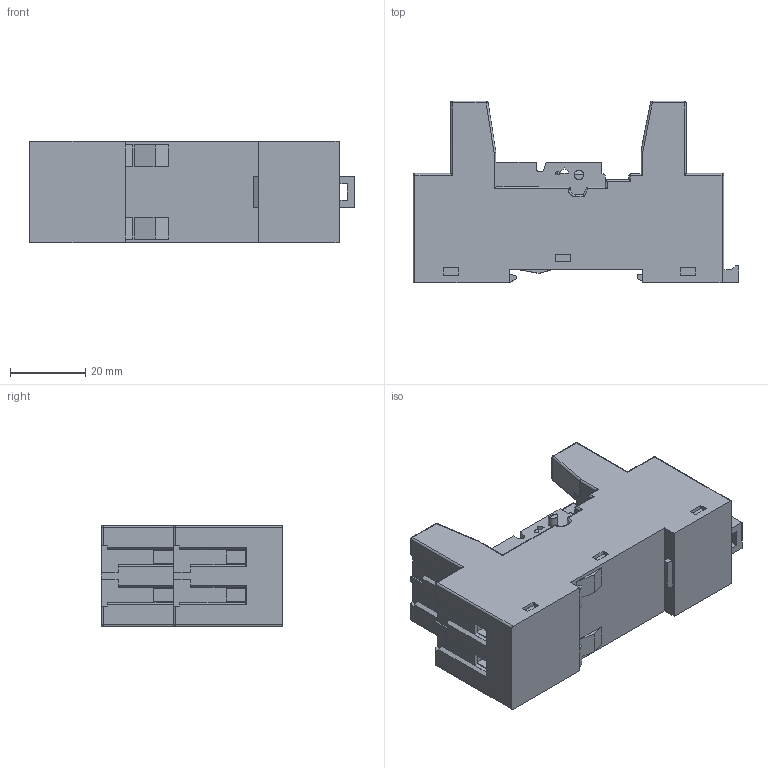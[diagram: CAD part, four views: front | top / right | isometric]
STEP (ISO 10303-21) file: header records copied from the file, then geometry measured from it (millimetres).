
FILE_DESCRIPTION(('STEP AP214'),'2;1');
FILE_NAME('9602_catalogo.stp','2010-09-08T09:09:47',(''),(''),'2007.1.106','THINKDESIGN','');
FILE_SCHEMA(('AUTOMOTIVE_DESIGN'));
Products named in the file (1): None
Bounding box: 86.5 x 48.2 x 27 mm (x, y, z)
Surface area: 18024.2 mm2 (no closed solid volume)
Topology: 0 solids, 0 shells, 713 faces, 3872 edges, 3846 vertices
Faces by surface type: plane 536, cylinder 95, bspline 82
Full cylindrical faces by diameter (mm): 2.5 x1, 4.7 x8
Entity records: 38880 total; most frequent: CARTESIAN_POINT 10580, DIRECTION 4884, COMPOSITE_CURVE_SEGMENT 3846, TRIMMED_CURVE 3427, VECTOR 3232, LINE 3232, AXIS2_PLACEMENT_3D 826, OUTER_BOUNDARY_CURVE 713
